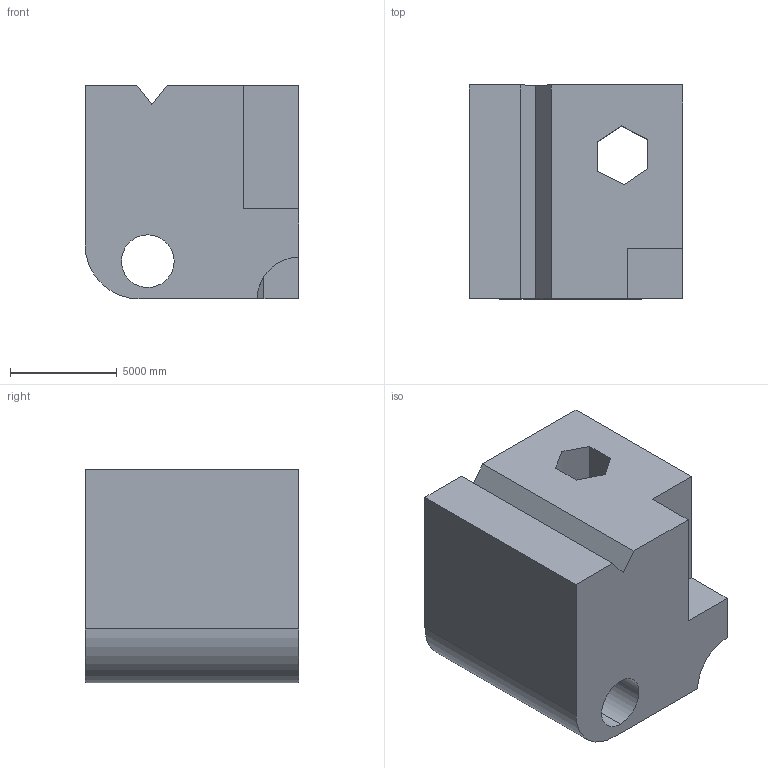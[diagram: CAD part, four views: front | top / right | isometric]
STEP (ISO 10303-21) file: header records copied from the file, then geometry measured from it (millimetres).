
FILE_DESCRIPTION (( 'STEP AP203' ), '1' );
FILE_NAME ('106.STEP', '2022-08-31T11:36:30', ( 'user' ), ( '' ), 'SwSTEP 2.0', 'SolidWorks 2021', '' );
FILE_SCHEMA (( 'CONFIG_CONTROL_DESIGN' ));
Length unit declared in the file: centimetre
Products named in the file (1): 106
Bounding box: 10000 x 10000 x 10000 mm (x, y, z)
Volume: 829286310282.6 mm3; surface area: 728416143.8 mm2
Topology: 1 solids, 1 shells, 23 faces, 66 edges, 44 vertices
Faces by surface type: plane 19, cylinder 4
Entity records: 833 total; most frequent: CARTESIAN_POINT 137, ORIENTED_EDGE 132, DIRECTION 121, EDGE_CURVE 66, LINE 57, VECTOR 57, VERTEX_POINT 44, AXIS2_PLACEMENT_3D 32
